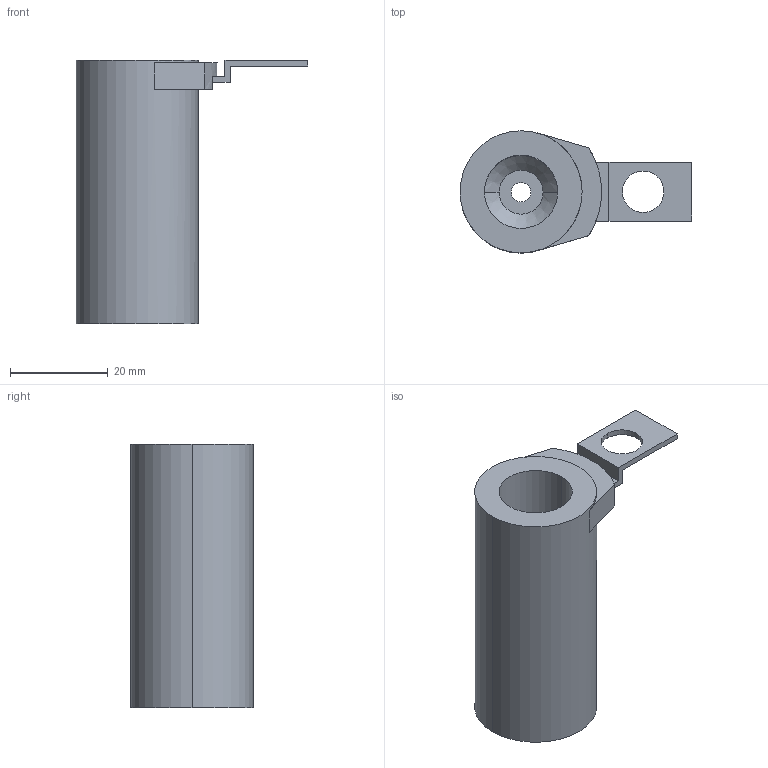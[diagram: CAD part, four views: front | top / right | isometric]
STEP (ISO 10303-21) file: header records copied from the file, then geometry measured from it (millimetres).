
FILE_DESCRIPTION(/* description */ (''),/* implementation_level */ '2;1');
FILE_NAME(/* name */ '3d_tus15-54_06246_r00.stp',/* time_stamp */ '2011-01-10T14:08:54+09:00',/* author */ ('MISUMI'),/* organization */ (''),/* preprocessor_version */ 'ST-DEVELOPER v11',/* originating_system */ 'UGS - NX 5.0',/* authorisation */ '');
FILE_SCHEMA (('CONFIG_CONTROL_DESIGN'));
Length unit declared in the file: millimetre
Products named in the file (1): 3d_tus15-54_06246_r00
Bounding box: 47.5 x 25 x 54 mm (x, y, z)
Volume: 18810.2 mm3; surface area: 8318.6 mm2
Topology: 2 solids, 2 shells, 32 faces, 83 edges, 56 vertices
Faces by surface type: plane 21, cylinder 9, cone 2
Entity records: 1083 total; most frequent: DIRECTION 177, CARTESIAN_POINT 172, ORIENTED_EDGE 166, EDGE_CURVE 83, AXIS2_PLACEMENT_3D 61, VERTEX_POINT 56, LINE 55, VECTOR 55
